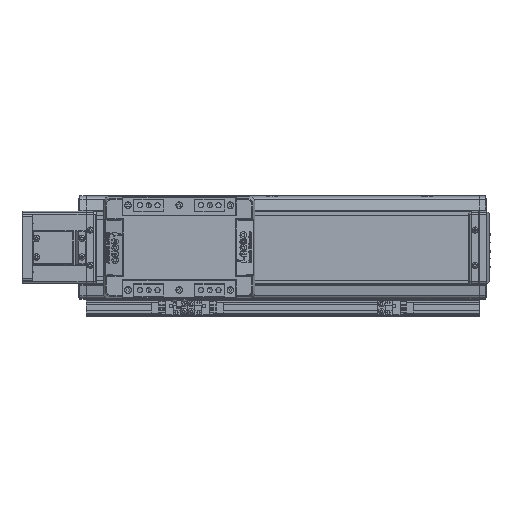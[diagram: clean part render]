
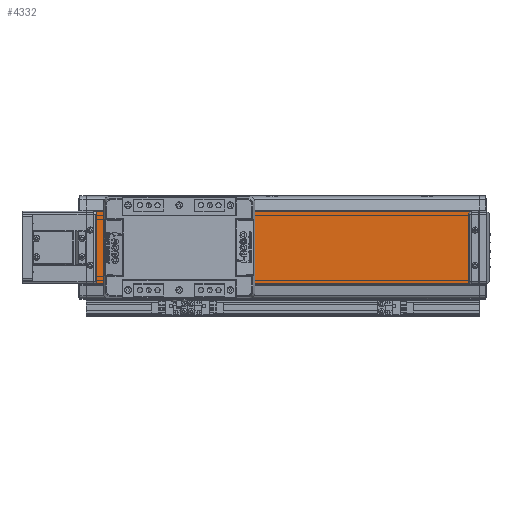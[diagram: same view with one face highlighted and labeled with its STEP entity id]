
A CAD part, top view. The second image highlights one B-rep face of the part: STEP entity #4332.
In plain terms, the highlighted planar face has unit normal (0, 0, 1).
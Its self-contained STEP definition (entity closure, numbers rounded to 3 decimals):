
#4332=ADVANCED_FACE('',(#10839),#10840,.T.);
#10839=FACE_OUTER_BOUND('',#20283,.T.);
#10840=PLANE('',#20284);
#20283=EDGE_LOOP('',(#32684,#32685,#32686,#32687));
#20284=AXIS2_PLACEMENT_3D('',#32688,#32689,#32690);
#32684=ORIENTED_EDGE('',*,*,#57395,.T.);
#32685=ORIENTED_EDGE('',*,*,#56921,.F.);
#32686=ORIENTED_EDGE('',*,*,#57396,.T.);
#32687=ORIENTED_EDGE('',*,*,#57397,.T.);
#32688=CARTESIAN_POINT('',(-580.,0.,20.15));
#32689=DIRECTION('',(0.,0.,1.0));
#32690=DIRECTION('',(0.,-1.0,0.));
#56921=EDGE_CURVE('',#68880,#68875,#68882,.T.);
#57395=EDGE_CURVE('',#69672,#68875,#69673,.T.);
#57396=EDGE_CURVE('',#68880,#69674,#69675,.T.);
#57397=EDGE_CURVE('',#69674,#69672,#69676,.T.);
#68875=VERTEX_POINT('',#85682);
#68880=VERTEX_POINT('',#85689);
#68882=LINE('',#85692,#85693);
#69672=VERTEX_POINT('',#86798);
#69673=LINE('',#86799,#86800);
#69674=VERTEX_POINT('',#86801);
#69675=LINE('',#86802,#86803);
#69676=LINE('',#86804,#86805);
#85682=CARTESIAN_POINT('',(-200.,35.,20.15));
#85689=CARTESIAN_POINT('',(-580.,35.,20.15));
#85692=CARTESIAN_POINT('',(-580.,35.,20.15));
#85693=VECTOR('',#104644,10.0);
#86798=CARTESIAN_POINT('',(-200.,-35.,20.15));
#86799=CARTESIAN_POINT('',(-200.,35.,20.15));
#86800=VECTOR('',#105280,10.0);
#86801=CARTESIAN_POINT('',(-580.,-35.,20.15));
#86802=CARTESIAN_POINT('',(-580.,35.,20.15));
#86803=VECTOR('',#105281,10.0);
#86804=CARTESIAN_POINT('',(-580.,-35.,20.15));
#86805=VECTOR('',#105282,10.0);
#104644=DIRECTION('',(1.0,0.,0.));
#105280=DIRECTION('',(0.,1.0,0.));
#105281=DIRECTION('',(0.,-1.0,0.));
#105282=DIRECTION('',(1.0,0.,0.));
